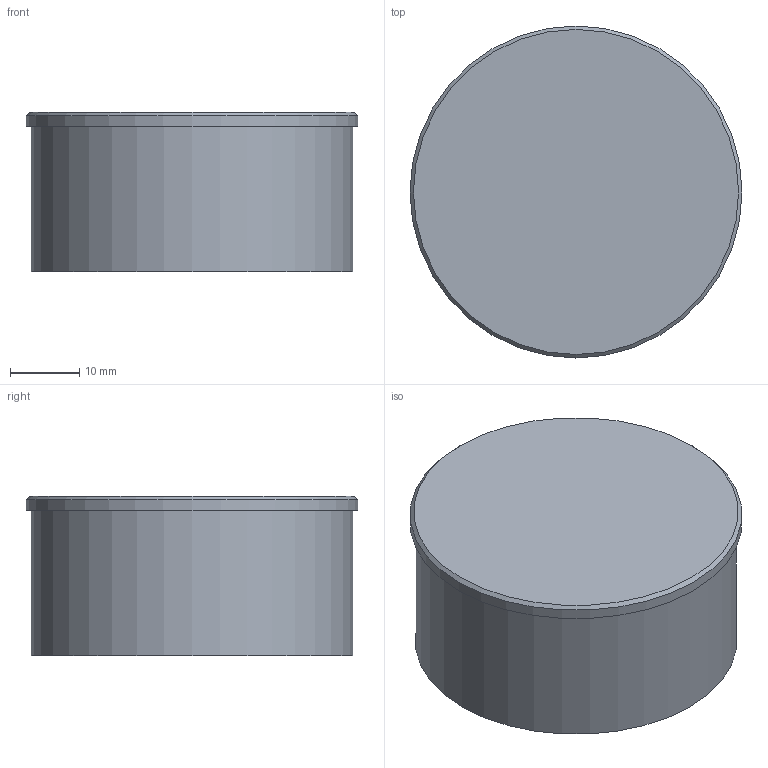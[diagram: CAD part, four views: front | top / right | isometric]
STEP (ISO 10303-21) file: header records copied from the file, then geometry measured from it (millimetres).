
FILE_DESCRIPTION (( 'STEP AP214' ), '1' );
FILE_NAME ('ﾂﾇﾊﾂ6ﾀ.STEP', '2021-05-19T08:12:27', ( '' ), ( '' ), 'SwSTEP 2.0', 'SolidWorks 2018', '' );
FILE_SCHEMA (( 'AUTOMOTIVE_DESIGN' ));
Length unit declared in the file: millimetre
Products named in the file (1): ﾂﾇﾊﾂ6ﾀ
Bounding box: 48 x 48 x 23 mm (x, y, z)
Volume: 17620.7 mm3; surface area: 9030 mm2
Topology: 1 solids, 1 shells, 8 faces, 11 edges, 7 vertices
Faces by surface type: plane 4, cylinder 3, cone 1
Full cylindrical faces by diameter (mm): 41.5 x1, 46.5 x1, 48 x1
Entity records: 188 total; most frequent: DIRECTION 32, CARTESIAN_POINT 23, AXIS2_PLACEMENT_3D 16, ORIENTED_EDGE 14, EDGE_LOOP 14, FACE_OUTER_BOUND 11, ADVANCED_FACE 8, CIRCLE 7
